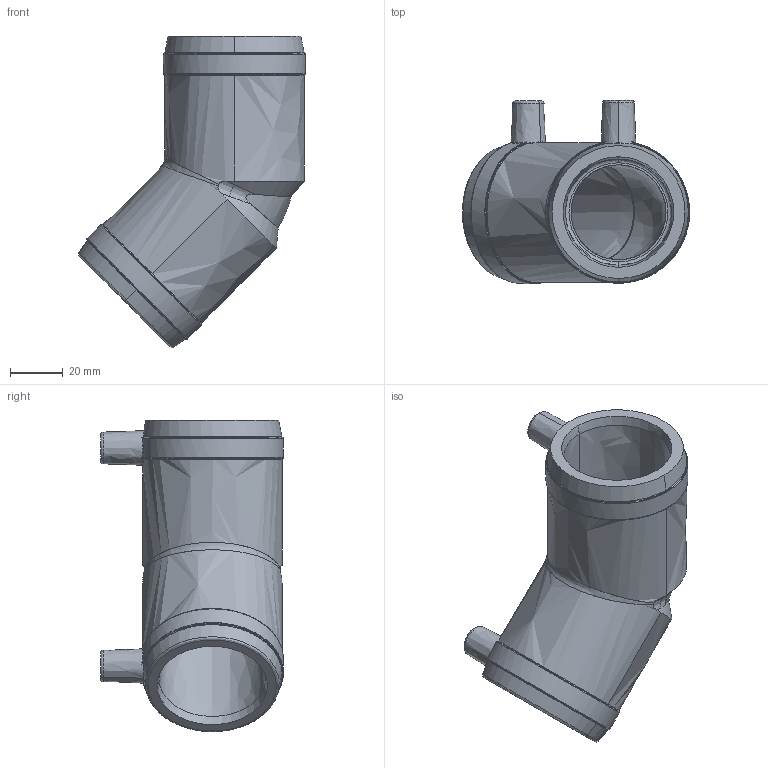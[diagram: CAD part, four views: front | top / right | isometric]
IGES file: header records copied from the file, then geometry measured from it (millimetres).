
Start section:  PTC IGES file: w45_d040_01.igs
Global section: file name: w45_d040_01.igs; native system: Pro/ENGINEER by Parametric Technology Corporation; preprocessor: 2011490; author: mtunjic; organization: Unknown; date: 20130812.112748; units: millimetre
Bounding box: 86.25 x 69.4 x 118.26 mm (x, y, z)
Surface area: 37169.8 mm2 (no closed solid volume)
Topology: 0 solids, 0 shells, 235 faces, 1168 edges, 1168 vertices
Faces by surface type: bspline 235
